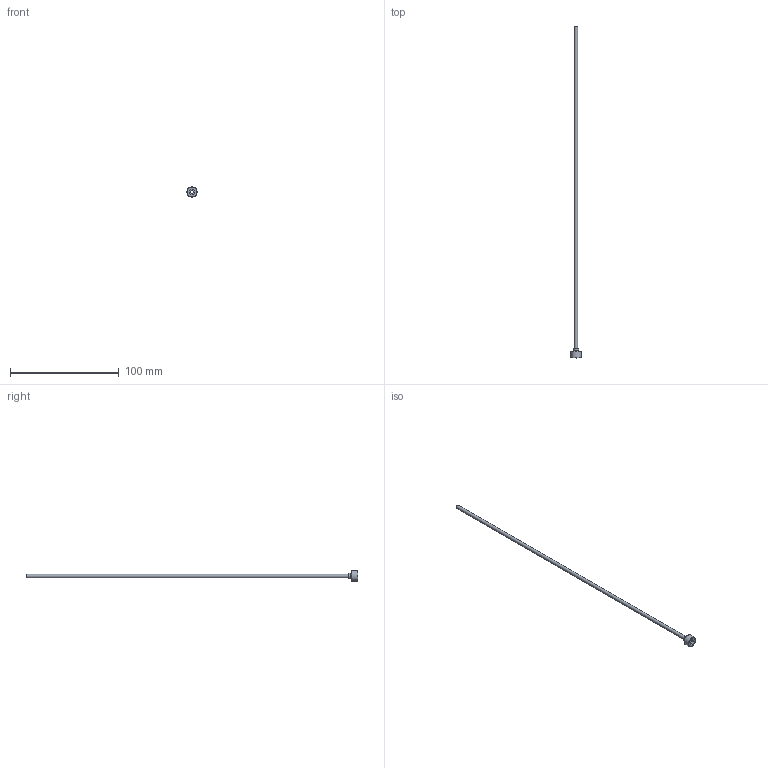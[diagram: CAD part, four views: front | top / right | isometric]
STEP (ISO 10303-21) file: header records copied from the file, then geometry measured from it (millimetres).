
FILE_DESCRIPTION(/* description */ (''),/* implementation_level */ '2;1');
FILE_NAME(/* name */ 'C:/Users/drich/Desktop/PT18-125-12 v1.step',/* time_stamp */ '2019-12-27T15:42:06-06:00',/* author */ (''),/* organization */ (''),/* preprocessor_version */ 'ST-DEVELOPER v18',/* originating_system */ 'Autodesk Translation Framework v8.12.0.6',/* authorisation */ '');
FILE_SCHEMA (('AUTOMOTIVE_DESIGN { 1 0 10303 214 3 1 1 }'));
Length unit declared in the file: inch
Products named in the file (1): PT18-125-12
Bounding box: 9.62 x 304.8 x 9.62 mm (x, y, z)
Volume: 914.6 mm3; surface area: 5962.1 mm2
Topology: 1 solids, 1 shells, 19 faces, 48 edges, 34 vertices
Faces by surface type: plane 11, cylinder 4, torus 2, cone 2
Full cylindrical faces by diameter (mm): 2.769 x1, 3.15 x1, 5.156 x1, 9.621 x1
Entity records: 633 total; most frequent: DIRECTION 112, CARTESIAN_POINT 102, ORIENTED_EDGE 96, EDGE_CURVE 48, AXIS2_PLACEMENT_3D 44, VERTEX_POINT 34, CIRCLE 24, EDGE_LOOP 24
